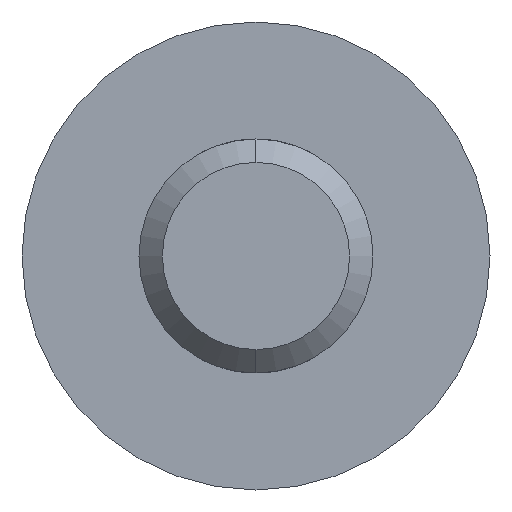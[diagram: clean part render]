
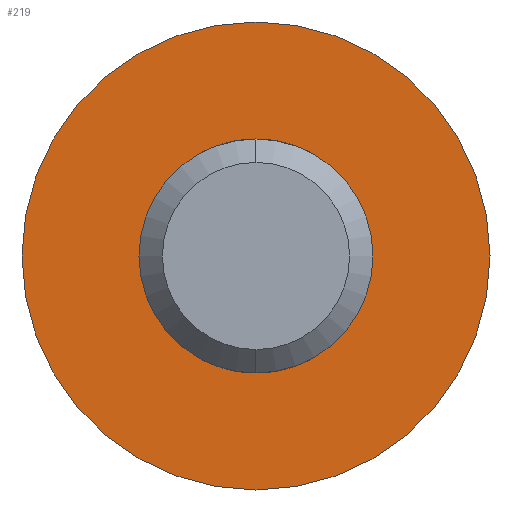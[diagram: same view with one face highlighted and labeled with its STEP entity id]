
A CAD part, left-side view. The second image highlights one B-rep face of the part: STEP entity #219.
In plain terms, the highlighted planar face has unit normal (-1, 0, 0).
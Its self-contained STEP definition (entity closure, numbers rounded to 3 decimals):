
#21 = EDGE_LOOP ( 'NONE', ( #486, #328 ) ) ;
#23 = DIRECTION ( 'NONE',  ( 1., 0., 0. ) ) ;
#34 = CARTESIAN_POINT ( 'NONE',  ( 0., 0., -5. ) ) ;
#39 = EDGE_CURVE ( 'NONE', #448, #668, #43, .T. ) ;
#43 = CIRCLE ( 'NONE', #398, 5. ) ;
#45 = PLANE ( 'NONE',  #46 ) ;
#46 = AXIS2_PLACEMENT_3D ( 'NONE', #388, #288, #660 ) ;
#85 = EDGE_CURVE ( 'NONE', #89, #113, #382, .T. ) ;
#89 = VERTEX_POINT ( 'NONE', #330 ) ;
#113 = VERTEX_POINT ( 'NONE', #498 ) ;
#162 = EDGE_CURVE ( 'NONE', #113, #89, #164, .T. ) ;
#164 = CIRCLE ( 'NONE', #357, 2.5 ) ;
#167 = DIRECTION ( 'NONE',  ( 0., 0., -1. ) ) ;
#190 = CARTESIAN_POINT ( 'NONE',  ( 0., 0., 0. ) ) ;
#212 = DIRECTION ( 'NONE',  ( 1., 0., 0. ) ) ;
#219 = ADVANCED_FACE ( 'NONE', ( #599, #442 ), #45, .F. ) ;
#222 = AXIS2_PLACEMENT_3D ( 'NONE', #278, #225, #167 ) ;
#225 = DIRECTION ( 'NONE',  ( 1., 0., 0. ) ) ;
#234 = DIRECTION ( 'NONE',  ( 1., 0., 0. ) ) ;
#267 = ORIENTED_EDGE ( 'NONE', *, *, #285, .F. ) ;
#271 = CARTESIAN_POINT ( 'NONE',  ( 0., 0., 0. ) ) ;
#278 = CARTESIAN_POINT ( 'NONE',  ( 0., 0., 0. ) ) ;
#285 = EDGE_CURVE ( 'NONE', #668, #448, #681, .T. ) ;
#288 = DIRECTION ( 'NONE',  ( 1., 0., 0. ) ) ;
#328 = ORIENTED_EDGE ( 'NONE', *, *, #162, .T. ) ;
#330 = CARTESIAN_POINT ( 'NONE',  ( 0., 0., -2.5 ) ) ;
#357 = AXIS2_PLACEMENT_3D ( 'NONE', #190, #234, #433 ) ;
#369 = DIRECTION ( 'NONE',  ( 0., 0., -1. ) ) ;
#382 = CIRCLE ( 'NONE', #222, 2.5 ) ;
#388 = CARTESIAN_POINT ( 'NONE',  ( 0., 0., 0. ) ) ;
#398 = AXIS2_PLACEMENT_3D ( 'NONE', #271, #212, #589 ) ;
#411 = ORIENTED_EDGE ( 'NONE', *, *, #39, .F. ) ;
#415 = CARTESIAN_POINT ( 'NONE',  ( 0., 0., 0. ) ) ;
#433 = DIRECTION ( 'NONE',  ( 0., 0., -1. ) ) ;
#442 = FACE_OUTER_BOUND ( 'NONE', #471, .T. ) ;
#448 = VERTEX_POINT ( 'NONE', #34 ) ;
#471 = EDGE_LOOP ( 'NONE', ( #267, #411 ) ) ;
#486 = ORIENTED_EDGE ( 'NONE', *, *, #85, .T. ) ;
#498 = CARTESIAN_POINT ( 'NONE',  ( 0., 0., 2.5 ) ) ;
#566 = AXIS2_PLACEMENT_3D ( 'NONE', #415, #23, #369 ) ;
#589 = DIRECTION ( 'NONE',  ( 0., 0., -1. ) ) ;
#599 = FACE_BOUND ( 'NONE', #21, .T. ) ;
#660 = DIRECTION ( 'NONE',  ( 0., 0., -1. ) ) ;
#668 = VERTEX_POINT ( 'NONE', #683 ) ;
#681 = CIRCLE ( 'NONE', #566, 5. ) ;
#683 = CARTESIAN_POINT ( 'NONE',  ( 0., 0., 5. ) ) ;
